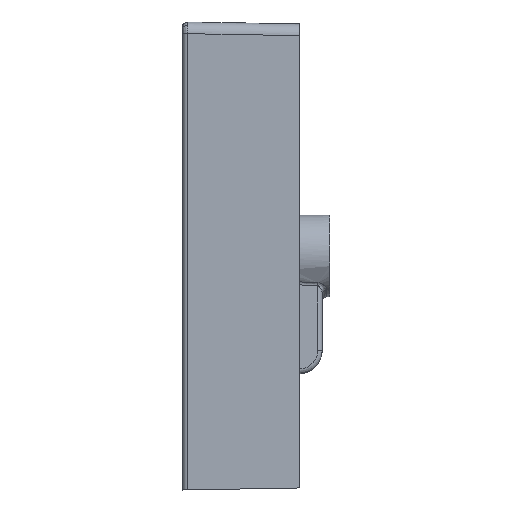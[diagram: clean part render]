
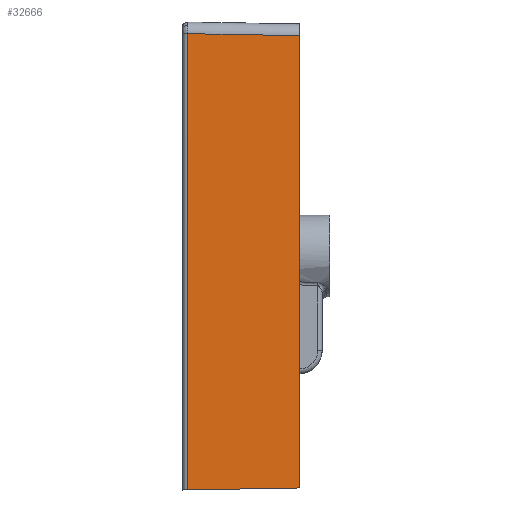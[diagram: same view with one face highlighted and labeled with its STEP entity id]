
A CAD part, left-side view. The second image highlights one B-rep face of the part: STEP entity #32666.
In plain terms, the highlighted planar face has unit normal (-1, -0.018, 0).
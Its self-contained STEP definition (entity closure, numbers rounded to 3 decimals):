
#799 = PLANE ( 'NONE',  #26909 ) ;
#1138 = DIRECTION ( 'NONE',  ( -1., -0.017, 0. ) ) ;
#1670 = VERTEX_POINT ( 'NONE', #30407 ) ;
#3591 = CARTESIAN_POINT ( 'NONE',  ( -249.882, -3.559, 191.278 ) ) ;
#3720 = ORIENTED_EDGE ( 'NONE', *, *, #29508, .F. ) ;
#3822 = CARTESIAN_POINT ( 'NONE',  ( -250., 3.245, -198.605 ) ) ;
#5040 = EDGE_CURVE ( 'NONE', #34715, #25962, #30985, .T. ) ;
#6831 = DIRECTION ( 'NONE',  ( 0.017, -1., 0. ) ) ;
#10732 = VECTOR ( 'NONE', #33485, 1000. ) ;
#10940 = VECTOR ( 'NONE', #23551, 1000. ) ;
#11812 = EDGE_CURVE ( 'NONE', #19165, #34715, #20134, .T. ) ;
#14863 = ORIENTED_EDGE ( 'NONE', *, *, #25145, .T. ) ;
#15378 = CARTESIAN_POINT ( 'NONE',  ( -248.255, -96.755, 189.651 ) ) ;
#15949 = CARTESIAN_POINT ( 'NONE',  ( -248.255, -96.755, -196.86 ) ) ;
#16116 = ORIENTED_EDGE ( 'NONE', *, *, #11812, .T. ) ;
#16409 = ORIENTED_EDGE ( 'NONE', *, *, #5040, .T. ) ;
#16807 = VECTOR ( 'NONE', #31634, 1000. ) ;
#17140 = VECTOR ( 'NONE', #28483, 1000. ) ;
#18214 = LINE ( 'NONE', #19061, #10940 ) ;
#18473 = LINE ( 'NONE', #31989, #16807 ) ;
#19061 = CARTESIAN_POINT ( 'NONE',  ( -250., 3.245, -198.605 ) ) ;
#19165 = VERTEX_POINT ( 'NONE', #15949 ) ;
#20134 = LINE ( 'NONE', #28143, #17140 ) ;
#23551 = DIRECTION ( 'NONE',  ( -0.017, 1., -0.017 ) ) ;
#25145 = EDGE_CURVE ( 'NONE', #25962, #1670, #18473, .T. ) ;
#25353 = FACE_OUTER_BOUND ( 'NONE', #29365, .T. ) ;
#25962 = VERTEX_POINT ( 'NONE', #27556 ) ;
#26909 = AXIS2_PLACEMENT_3D ( 'NONE', #3822, #1138, #6831 ) ;
#27556 = CARTESIAN_POINT ( 'NONE',  ( -249.917, -1.537, 191.313 ) ) ;
#28143 = CARTESIAN_POINT ( 'NONE',  ( -248.255, -96.755, 1.395 ) ) ;
#28483 = DIRECTION ( 'NONE',  ( 0., 0., 1. ) ) ;
#29365 = EDGE_LOOP ( 'NONE', ( #16409, #14863, #3720, #16116 ) ) ;
#29508 = EDGE_CURVE ( 'NONE', #19165, #1670, #18214, .T. ) ;
#30407 = CARTESIAN_POINT ( 'NONE',  ( -249.917, -1.537, -198.522 ) ) ;
#30985 = LINE ( 'NONE', #3591, #10732 ) ;
#31634 = DIRECTION ( 'NONE',  ( 0., 0., -1. ) ) ;
#31989 = CARTESIAN_POINT ( 'NONE',  ( -249.917, -1.537, -198.605 ) ) ;
#32666 = ADVANCED_FACE ( 'NONE', ( #25353 ), #799, .T. ) ;
#33485 = DIRECTION ( 'NONE',  ( -0.017, 1., 0.017 ) ) ;
#34715 = VERTEX_POINT ( 'NONE', #15378 ) ;
